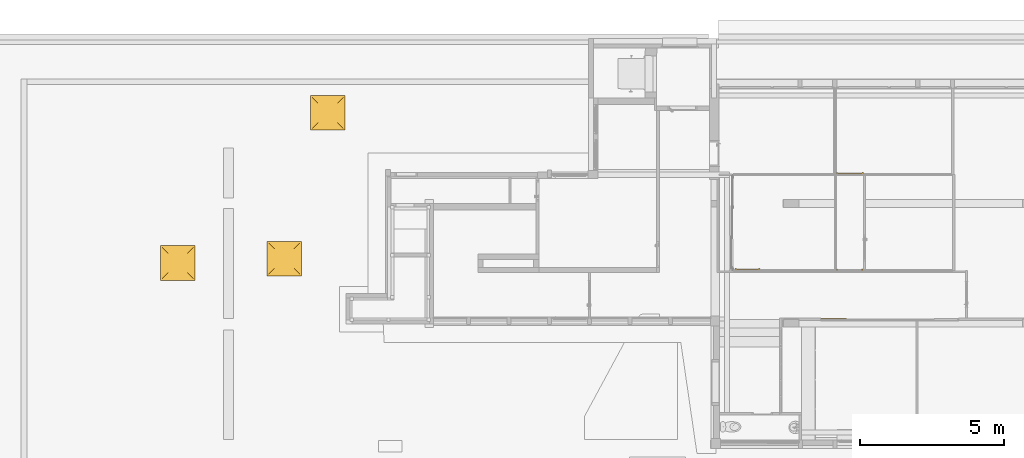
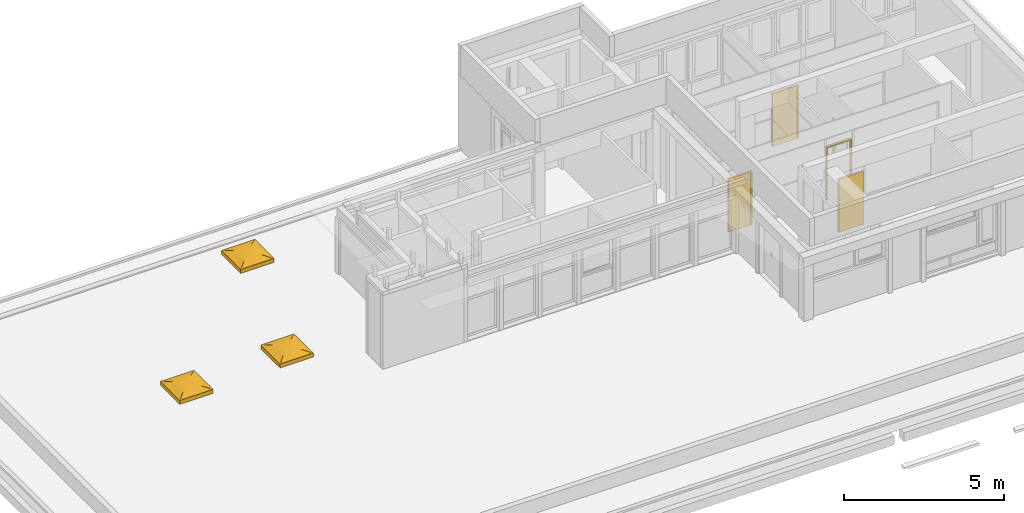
# One storey, part 39 of 49: 4 doors, 3 windows, 3 elements without a shape of their own.
"""IFC4 building model written with IfcOpenShell, lengths in metres."""

from ifc_helpers import new_model, entity, si_unit, converted_unit, derived_unit, direction, frame, origin, place, context, subcontext, project, spatial, indexed_curve, outline, extrude, polygons, source, transform, mapped, material, material_list, constituent, constituent_set, type_object, type_shapes, element, aggregate, save


model = new_model("IFC4")

# Units and contexts
model_context = context("Model", 3, precision=1e-05, world=origin(), true_north=direction((6.12303176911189e-17, 1.0)))
body_context = subcontext(model_context, "Body", "Model", "MODEL_VIEW")
ifc_project = project(units=[si_unit("LENGTHUNIT", "METRE"), si_unit("AREAUNIT", "SQUARE_METRE"), si_unit("VOLUMEUNIT", "CUBIC_METRE"), converted_unit("PLANEANGLEUNIT", "DEGREE", entity("IfcRatioMeasure", 0.0174532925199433), si_unit("PLANEANGLEUNIT", "RADIAN"), dimensions=[0, 0, 0, 0, 0, 0, 0]), si_unit("MASSUNIT", "GRAM", prefix="KILO"), derived_unit("MASSDENSITYUNIT", [(si_unit("MASSUNIT", "GRAM", prefix="KILO"), 1), (si_unit("LENGTHUNIT", "METRE"), -3)]), derived_unit("MOMENTOFINERTIAUNIT", [(si_unit("LENGTHUNIT", "METRE"), 4)]), si_unit("TIMEUNIT", "SECOND"), si_unit("FREQUENCYUNIT", "HERTZ"), si_unit("THERMODYNAMICTEMPERATUREUNIT", "DEGREE_CELSIUS"), derived_unit("THERMALTRANSMITTANCEUNIT", [(si_unit("MASSUNIT", "GRAM", prefix="KILO"), 1), (si_unit("THERMODYNAMICTEMPERATUREUNIT", "KELVIN"), -1), (si_unit("TIMEUNIT", "SECOND"), -3)]), derived_unit("VOLUMETRICFLOWRATEUNIT", [(si_unit("LENGTHUNIT", "METRE"), 3), (si_unit("TIMEUNIT", "SECOND"), -1)]), si_unit("ELECTRICCURRENTUNIT", "AMPERE"), si_unit("ELECTRICVOLTAGEUNIT", "VOLT"), si_unit("POWERUNIT", "WATT"), si_unit("FORCEUNIT", "NEWTON", prefix="KILO"), si_unit("ILLUMINANCEUNIT", "LUX"), si_unit("LUMINOUSFLUXUNIT", "LUMEN"), si_unit("LUMINOUSINTENSITYUNIT", "CANDELA"), derived_unit("USERDEFINED", [(si_unit("MASSUNIT", "GRAM", prefix="KILO"), -1), (si_unit("LENGTHUNIT", "METRE"), -2), (si_unit("TIMEUNIT", "SECOND"), 3), (si_unit("LUMINOUSFLUXUNIT", "LUMEN"), 1)]), derived_unit("LINEARVELOCITYUNIT", [(si_unit("LENGTHUNIT", "METRE"), 1), (si_unit("TIMEUNIT", "SECOND"), -1)]), si_unit("PRESSUREUNIT", "PASCAL"), derived_unit("USERDEFINED", [(si_unit("LENGTHUNIT", "METRE"), -2), (si_unit("MASSUNIT", "GRAM", prefix="KILO"), 1), (si_unit("TIMEUNIT", "SECOND"), -2)]), derived_unit("LINEARFORCEUNIT", [(si_unit("MASSUNIT", "GRAM", prefix="KILO"), 1), (si_unit("LENGTHUNIT", "METRE"), 1), (si_unit("TIMEUNIT", "SECOND"), -2), (si_unit("LENGTHUNIT", "METRE"), -1)]), derived_unit("PLANARFORCEUNIT", [(si_unit("MASSUNIT", "GRAM", prefix="KILO"), 1), (si_unit("LENGTHUNIT", "METRE"), 1), (si_unit("TIMEUNIT", "SECOND"), -2), (si_unit("LENGTHUNIT", "METRE"), -2)])], contexts=[model_context])

# Site, building, storey
site_placement = place(None, origin())
site = spatial("IfcSite", under=ifc_project, at=site_placement, Name="Default", CompositionType="ELEMENT")
building_placement = place(site_placement, origin())
building = spatial("IfcBuilding", under=site, at=building_placement, Name="HOTEL CONSULAIRE BOULOGNE SUR MER", CompositionType="ELEMENT")
storey_placement = place(building_placement, frame((0.0, 0.0, 6.81974152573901)))
storey = spatial("IfcBuildingStorey", under=building, at=storey_placement, Name="Niveau 2", CompositionType="ELEMENT", Elevation=6.81974152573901)

# Curtain wall, door
curtain_wall_type = type_object("IfcCurtainWallType", Name="Mur-rideau:Simple panneau", PredefinedType="NOTDEFINED")
curtain_wall_1_placement = place(storey_placement, frame((0.0, 0.0, -6.81974152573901)))
curtain_wall_1 = element("IfcCurtainWall", 1, at=curtain_wall_1_placement, inside=storey, type_object=curtain_wall_type, Name="Mur-rideau:Simple panneau", ObjectType="Mur-rideau:Simple panneau", PredefinedType="NOTDEFINED")
ifc_material_1 = material(Name="PVC - Blanc", Category="Plastique")
ifc_constituent_1 = constituent(ifc_material_1, Name="PVC - Blanc", Category="Matériaux")
ifc_material_2 = material(Name="Porte - Panneau", Category="Bois")
ifc_constituent_2 = constituent(ifc_material_2, Name="Porte - Panneau", Category="Matériaux")
ifc_constituent_set_1 = constituent_set(constituents=[ifc_constituent_1, ifc_constituent_2], Name="MaterialConstituentSet")
ifc_material_list_1 = material_list([ifc_material_1, ifc_material_2, ifc_material_1, ifc_material_1])
door_type_1 = type_object("IfcDoorType", Name="Porte simple:Porte simple", OperationType="SINGLE_SWING_RIGHT", PredefinedType="DOOR", material=ifc_material_list_1)
shared_shape_1 = source(origin(), body_context, "Body", "SweptSolid", [
    extrude(outline(indexed_curve([(0.393774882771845, -0.997999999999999), (0.443774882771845, -0.997999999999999), (0.443774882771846, 1.023), (-0.443774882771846, 1.023), (-0.443774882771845, -0.997999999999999), (-0.393774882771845, -0.997999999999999), (-0.393774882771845, 0.972999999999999), (0.393774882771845, 0.972999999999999), (0.393774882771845, -0.997999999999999)], self_intersect=False)), frame((0.0, -0.045, 0.997999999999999), z_axis=(0.0, 1.0, 0.0), x_axis=(-1.0, 0.0, 0.0)), (0.0, 0.0, 1.0), 0.07),
    extrude(outline(indexed_curve([(-0.393774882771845, -0.025), (0.393774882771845, -0.025), (0.393774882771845, 0.025), (-0.393774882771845, 0.025), (-0.393774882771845, -0.025)], self_intersect=False)), frame((0.0, -0.00999999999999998, 0.0), z_axis=(0.0, 0.0, 1.0), x_axis=(-1.0, 0.0, 0.0)), (0.0, 0.0, 1.0), 1.971),
])
type_shapes(door_type_1, [shared_shape_1])
door_1_placement = place(curtain_wall_1_placement, frame((15.6335819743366, -19.643155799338, 6.81974152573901)))
door_1 = element("IfcDoor", 2, at=door_1_placement, type_object=door_type_1, material=ifc_constituent_set_1, Name="Porte simple:Porte simple", ObjectType="Porte simple:Porte simple", OperationType="SINGLE_SWING_RIGHT", OverallHeight=2.021, OverallWidth=0.887549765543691, PredefinedType="DOOR", context=body_context, shape_type="MappedRepresentation", body=[
    mapped(shared_shape_1, transform((0.0, 0.0, 0.0), scale=1.0)),
])
aggregate(curtain_wall_1, [door_1])

curtain_wall_2_placement = place(storey_placement, frame((0.0, 0.0, -6.81974152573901)))
curtain_wall_2 = element("IfcCurtainWall", 3, at=curtain_wall_2_placement, inside=storey, type_object=curtain_wall_type, Name="Mur-rideau:Simple panneau", ObjectType="Mur-rideau:Simple panneau", PredefinedType="NOTDEFINED")
ifc_constituent_3 = constituent(ifc_material_1, Name="PVC - Blanc", Category="Matériaux")
ifc_constituent_4 = constituent(ifc_material_2, Name="Porte - Panneau", Category="Matériaux")
ifc_constituent_set_2 = constituent_set(constituents=[ifc_constituent_3, ifc_constituent_4], Name="MaterialConstituentSet")
ifc_material_list_2 = material_list([ifc_material_1, ifc_material_1, ifc_material_2, ifc_material_1])
door_type_2 = type_object("IfcDoorType", Name="Porte simple:Porte simple", OperationType="SINGLE_SWING_LEFT", PredefinedType="DOOR", material=ifc_material_list_2)
shared_shape_2 = source(origin(), body_context, "Body", "SweptSolid", [
    extrude(outline(indexed_curve([(-0.997999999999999, -0.470999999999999), (1.023, -0.470999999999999), (1.023, 0.470999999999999), (-0.997999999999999, 0.470999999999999), (-0.997999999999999, 0.420999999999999), (0.972999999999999, 0.420999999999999), (0.972999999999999, -0.420999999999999), (-0.997999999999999, -0.420999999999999), (-0.997999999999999, -0.470999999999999)], self_intersect=False)), frame((0.0, -0.025, 0.997999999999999), z_axis=(0.0, 1.0, 0.0), x_axis=(0.0, 0.0, 1.0)), (0.0, 0.0, 1.0), 0.07),
    extrude(outline(indexed_curve([(-0.0250000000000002, -0.420999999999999), (0.0249999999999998, -0.420999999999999), (0.0250000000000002, 0.420999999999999), (-0.0249999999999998, 0.420999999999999), (-0.0250000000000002, -0.420999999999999)], self_intersect=False)), frame((0.0, 0.00999999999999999, 0.0), z_axis=(0.0, 0.0, 1.0), x_axis=(0.0, 1.0, 0.0)), (0.0, 0.0, 1.0), 1.971),
])
type_shapes(door_type_2, [shared_shape_2])
door_2_placement = place(curtain_wall_2_placement, frame((16.202075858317, -14.6024237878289, 6.81974152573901)))
door_2 = element("IfcDoor", 4, at=door_2_placement, type_object=door_type_2, material=ifc_constituent_set_2, Name="Porte simple:Porte simple", ObjectType="Porte simple:Porte simple", OperationType="SINGLE_SWING_LEFT", OverallHeight=2.021, OverallWidth=0.941999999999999, PredefinedType="DOOR", context=body_context, shape_type="MappedRepresentation", body=[
    mapped(shared_shape_2, transform((0.0, 0.0, 0.0), scale=1.0)),
])
aggregate(curtain_wall_2, [door_2])

# Curtain wall, doors
curtain_wall_3_placement = place(storey_placement, frame((0.0, 0.0, -6.81974152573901)))
curtain_wall_3 = element("IfcCurtainWall", 5, at=curtain_wall_3_placement, inside=storey, type_object=curtain_wall_type, Name="Mur-rideau:Simple panneau", ObjectType="Mur-rideau:Simple panneau", PredefinedType="NOTDEFINED")
ifc_material_list_3 = material_list([ifc_material_1, ifc_material_1, ifc_material_2, ifc_material_1])
door_type_3 = type_object("IfcDoorType", Name="ouverture simple:ouverture simple", OperationType="SINGLE_SWING_LEFT", PredefinedType="DOOR", material=ifc_material_list_3)
shared_shape_3 = source(origin(), body_context, "Body", "SweptSolid", [
    extrude(outline(indexed_curve([(-0.997999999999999, -0.465), (1.023, -0.465), (1.023, 0.465), (-0.997999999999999, 0.465), (-0.997999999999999, 0.415), (0.972999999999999, 0.415), (0.972999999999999, -0.415), (-0.997999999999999, -0.415), (-0.997999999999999, -0.465)], self_intersect=False)), frame((0.0, -0.025, 0.997999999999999), z_axis=(0.0, 1.0, 0.0), x_axis=(0.0, 0.0, 1.0)), (0.0, 0.0, 1.0), 0.0699999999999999),
])
type_shapes(door_type_3, [shared_shape_3])
door_3_placement = place(curtain_wall_3_placement, frame((16.196075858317, -17.9313078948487, 6.81974152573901), z_axis=(0.0, 0.0, 1.0), x_axis=(-1.0, 0.0, 0.0)))
door_3 = element("IfcDoor", 6, at=door_3_placement, type_object=door_type_3, material=ifc_material_1, Name="ouverture simple:ouverture simple", ObjectType="ouverture simple:ouverture simple", OperationType="SINGLE_SWING_LEFT", OverallHeight=2.021, OverallWidth=0.930000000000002, PredefinedType="DOOR", context=body_context, shape_type="MappedRepresentation", body=[
    mapped(shared_shape_3, transform((0.0, 0.0, 0.0), scale=1.0)),
])
ifc_constituent_5 = constituent(ifc_material_1, Name="PVC - Blanc", Category="Matériaux")
ifc_constituent_6 = constituent(ifc_material_2, Name="Porte - Panneau", Category="Matériaux")
ifc_constituent_set_3 = constituent_set(constituents=[ifc_constituent_5, ifc_constituent_6], Name="MaterialConstituentSet")
ifc_material_list_4 = material_list([ifc_material_1, ifc_material_2, ifc_material_1, ifc_material_1])
door_type_4 = type_object("IfcDoorType", Name="Porte simple:Porte simple", OperationType="SINGLE_SWING_LEFT", PredefinedType="DOOR", material=ifc_material_list_4)
shared_shape_4 = source(origin(), body_context, "Body", "SweptSolid", [
    extrude(outline(indexed_curve([(-0.997999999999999, -0.426304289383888), (1.023, -0.426304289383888), (1.023, 0.426304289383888), (-0.997999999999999, 0.426304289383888), (-0.997999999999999, 0.376304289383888), (0.972999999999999, 0.376304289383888), (0.972999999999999, -0.376304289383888), (-0.997999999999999, -0.376304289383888), (-0.997999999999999, -0.426304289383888)], self_intersect=False)), frame((0.0, -0.025, 0.997999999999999), z_axis=(0.0, 1.0, 0.0), x_axis=(0.0, 0.0, 1.0)), (0.0, 0.0, 1.0), 0.07),
    extrude(outline(indexed_curve([(-0.0250000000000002, -0.376304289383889), (0.0249999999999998, -0.376304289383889), (0.0250000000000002, 0.376304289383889), (-0.0249999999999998, 0.376304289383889), (-0.0250000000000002, -0.376304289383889)], self_intersect=False)), frame((0.0, 0.00999999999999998, 0.0), z_axis=(0.0, 0.0, 1.0), x_axis=(0.0, 1.0, 0.0)), (0.0, 0.0, 1.0), 1.971),
])
type_shapes(door_type_4, [shared_shape_4])
door_4_placement = place(curtain_wall_3_placement, frame((12.6517715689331, -17.9313078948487, 6.81974152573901)))
door_4 = element("IfcDoor", 7, at=door_4_placement, type_object=door_type_4, material=ifc_constituent_set_3, Name="Porte simple:Porte simple", ObjectType="Porte simple:Porte simple", OperationType="SINGLE_SWING_LEFT", OverallHeight=2.021, OverallWidth=0.852608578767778, PredefinedType="DOOR", context=body_context, shape_type="MappedRepresentation", body=[
    mapped(shared_shape_4, transform((0.0, 0.0, 0.0), scale=1.0)),
])
aggregate(curtain_wall_3, [door_3, door_4])

# Windows
ifc_material_3 = material(Name="Verre", Category="Verre")
ifc_constituent_7 = constituent(ifc_material_3, Name="Verre", Category="Matériaux")
ifc_material_4 = material(Name="Métal - Aluminium", Category="Métal")
ifc_constituent_8 = constituent(ifc_material_4, Name="Métal - Aluminium", Category="Matériaux")
ifc_constituent_set_4 = constituent_set(constituents=[ifc_constituent_7, ifc_constituent_8], Name="MaterialConstituentSet")
ifc_material_list_5 = material_list([ifc_material_4, ifc_material_3])
window_type = type_object("IfcWindowType", Name="Skydome:1100x1100", PartitioningType="NOTDEFINED", PredefinedType="WINDOW", material=ifc_material_list_5)
shared_shape_5 = source(origin(), body_context, "Body", "Tessellation", [
    polygons([(-0.629999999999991, 0.289999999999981, 4.63759999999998), (-0.523472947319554, 0.183472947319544, 4.67334497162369), (-0.414652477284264, 0.0746524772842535, 4.70134177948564), (-0.304101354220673, -0.0358986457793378, 4.72144563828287), (-0.192391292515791, -0.14760870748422, 4.73355258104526), (-0.0801000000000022, -0.259900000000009, 4.7375999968), (-0.0799000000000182, -0.259900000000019, 4.7375999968), (0.0323912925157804, -0.14760870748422, 4.73355258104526), (0.144101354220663, -0.0358986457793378, 4.72144563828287), (0.254652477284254, 0.0746524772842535, 4.70134177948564), (0.363472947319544, 0.183472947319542, 4.67334497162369), (0.469999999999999, 0.28999999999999, 4.63759999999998), (0.0601086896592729, 0.289999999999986, 4.63759999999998), (-0.63, 0.289999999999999, 4.63193095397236), (0.469999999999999, 0.289999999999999, 4.63193095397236), (-0.0801000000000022, -0.2599, 4.73229504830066), (-0.1924080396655, -0.147591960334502, 4.72823259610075), (-0.304130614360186, -0.0358693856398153, 4.71608082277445), (-0.414685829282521, 0.0746858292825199, 4.69590301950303), (-0.523497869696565, 0.183497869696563, 4.66780428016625), (0.363497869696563, 0.183497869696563, 4.66780428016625), (0.25468582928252, 0.0746858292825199, 4.69590301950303), (0.144130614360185, -0.0358693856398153, 4.71608082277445), (0.0324080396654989, -0.147591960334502, 4.72823259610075), (-0.0798999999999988, -0.2599, 4.73229504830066), (-0.218936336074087, 0.289999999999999, 4.63193095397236), (-0.0799000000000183, -0.260099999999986, 4.7375999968), (0.0323912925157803, -0.372391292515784, 4.73355258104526), (0.144101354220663, -0.484101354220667, 4.72144563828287), (0.254652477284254, -0.594652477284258, 4.70134177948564), (0.363472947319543, -0.703472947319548, 4.67334497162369), (0.46999999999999, -0.810000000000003, 4.63759999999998), (0.469999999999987, -0.400108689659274, 4.63759999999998), (0.469999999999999, -0.810000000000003, 4.63193095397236), (0.363497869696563, -0.703497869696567, 4.66780428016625), (0.25468582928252, -0.594685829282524, 4.69590301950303), (0.144130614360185, -0.484130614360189, 4.71608082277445), (0.0324080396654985, -0.372408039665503, 4.72823259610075), (-0.0798999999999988, -0.260100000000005, 4.73229504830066), (0.469999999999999, -0.121063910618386, 4.63193095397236), (-0.0800999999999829, -0.260099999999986, 4.7375999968), (-0.192391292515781, -0.372391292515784, 4.73355258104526), (-0.304101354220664, -0.484101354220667, 4.72144563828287), (-0.414652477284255, -0.594652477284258, 4.70134177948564), (-0.523472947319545, -0.703472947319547, 4.67334497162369), (-0.63, -0.809999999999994, 4.63759999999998), (-0.220108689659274, -0.809999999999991, 4.63759999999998), (-0.63, -0.810000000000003, 4.63193095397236), (-0.523497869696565, -0.703497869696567, 4.66780428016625), (-0.414685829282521, -0.594685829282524, 4.69590301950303), (-0.304130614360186, -0.484130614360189, 4.71608082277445), (-0.1924080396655, -0.372408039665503, 4.72823259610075), (-0.0801000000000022, -0.260100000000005, 4.73229504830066), (0.058936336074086, -0.810000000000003, 4.63193095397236), (-0.629999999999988, -0.11989131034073, 4.63759999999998), (-0.63, -0.398936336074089, 4.63193095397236)], [[[6, 7, 8, 5]], [[5, 8, 9, 4]], [[9, 10, 3, 4]], [[13, 2, 3]], [[10, 11, 13]], [[11, 12, 13]], [[2, 13, 1]], [[3, 10, 13]], [[1, 13, 12, 15, 26, 14]], [[27, 39, 53, 41]], [[20, 26, 19]], [[22, 19, 26]], [[14, 26, 20]], [[26, 15, 21]], [[21, 22, 26]], [[22, 23, 18, 19]], [[17, 18, 23, 24]], [[16, 17, 24, 25]], [[6, 16, 25, 7]], [[32, 47, 46, 48, 54, 34]], [[7, 27, 28, 8]], [[8, 28, 29, 9]], [[29, 30, 10, 9]], [[33, 11, 10]], [[30, 31, 33]], [[31, 32, 33]], [[11, 33, 12]], [[10, 30, 33]], [[12, 33, 32, 34, 40, 15]], [[41, 53, 16, 6]], [[21, 40, 22]], [[36, 22, 40]], [[15, 40, 21]], [[40, 34, 35]], [[35, 36, 40]], [[36, 37, 23, 22]], [[24, 23, 37, 38]], [[25, 24, 38, 39]], [[7, 25, 39, 27]], [[46, 55, 1, 14, 56, 48]], [[27, 41, 42, 28]], [[28, 42, 43, 29]], [[43, 44, 30, 29]], [[47, 31, 30]], [[44, 45, 47]], [[45, 46, 47]], [[31, 47, 32]], [[30, 44, 47]], [[35, 54, 36]], [[50, 36, 54]], [[34, 54, 35]], [[54, 48, 49]], [[49, 50, 54]], [[50, 51, 37, 36]], [[38, 37, 51, 52]], [[39, 38, 52, 53]], [[41, 6, 5, 42]], [[42, 5, 4, 43]], [[4, 3, 44, 43]], [[55, 45, 44]], [[3, 2, 55]], [[2, 1, 55]], [[45, 55, 46]], [[44, 3, 55]], [[49, 56, 50]], [[19, 50, 56]], [[48, 56, 49]], [[56, 14, 20]], [[20, 19, 56]], [[19, 18, 51, 50]], [[52, 51, 18, 17]], [[53, 52, 17, 16]]], closed=True),
    polygons([(-0.679999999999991, -0.859999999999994, 4.6376), (-0.679999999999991, -0.859999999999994, 4.4876), (0.51999999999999, -0.859999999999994, 4.4876), (0.51999999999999, -0.859999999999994, 4.6376), (-0.63, -0.810000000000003, 4.6376), (0.469999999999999, -0.810000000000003, 4.6376), (-0.63, -0.810000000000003, 4.4876), (0.469999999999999, -0.810000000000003, 4.4876), (0.51999999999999, 0.33999999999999, 4.4876), (0.51999999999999, 0.33999999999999, 4.6376), (0.469999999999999, 0.289999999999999, 4.6376), (0.469999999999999, 0.289999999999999, 4.4876), (-0.679999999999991, 0.33999999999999, 4.4876), (-0.679999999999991, 0.33999999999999, 4.6376), (-0.63, 0.289999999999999, 4.6376), (-0.63, 0.289999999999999, 4.4876)], [[[1, 2, 3, 4]], [[12, 11, 15, 16]], [[1, 4, 10, 14], [5, 15, 11, 6]], [[7, 5, 6, 8]], [[10, 9, 13, 14]], [[2, 13, 9, 3], [7, 8, 12, 16]], [[4, 3, 9, 10]], [[16, 15, 5, 7]], [[8, 6, 11, 12]], [[14, 13, 2, 1]]], closed=True),
])
type_shapes(window_type, [shared_shape_5])
window_1_placement = place(storey_placement, frame((-3.33969934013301, -17.2849019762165, -3.84559999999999)))
element("IfcWindow", 8, at=window_1_placement, inside=storey, type_object=window_type, material=ifc_constituent_set_4, Name="Skydome:1100x1100", ObjectType="Skydome:1100x1100", OverallHeight=1.07999999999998, OverallWidth=1.29715041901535, PartitioningType="NOTDEFINED", PredefinedType="WINDOW", context=body_context, shape_type="MappedRepresentation", body=[
    mapped(shared_shape_5, transform((0.0, 0.0, 0.0), scale=1.0)),
])
ifc_constituent_9 = constituent(ifc_material_3, Name="Verre", Category="Matériaux")
ifc_constituent_10 = constituent(ifc_material_4, Name="Métal - Aluminium", Category="Matériaux")
ifc_constituent_set_5 = constituent_set(constituents=[ifc_constituent_9, ifc_constituent_10], Name="MaterialConstituentSet")
window_2_placement = place(storey_placement, frame((-7.03098856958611, -17.4355842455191, -3.84559999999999)))
element("IfcWindow", 9, at=window_2_placement, inside=storey, type_object=window_type, material=ifc_constituent_set_5, Name="Skydome:1100x1100", ObjectType="Skydome:1100x1100", OverallHeight=1.07999999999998, OverallWidth=1.29715041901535, PartitioningType="NOTDEFINED", PredefinedType="WINDOW", context=body_context, shape_type="MappedRepresentation", body=[
    mapped(shared_shape_5, transform((0.0, 0.0, 0.0), scale=1.0)),
])
ifc_constituent_11 = constituent(ifc_material_3, Name="Verre", Category="Matériaux")
ifc_constituent_12 = constituent(ifc_material_4, Name="Métal - Aluminium", Category="Matériaux")
ifc_constituent_set_6 = constituent_set(constituents=[ifc_constituent_11, ifc_constituent_12], Name="MaterialConstituentSet")
window_3_placement = place(storey_placement, frame((-1.8320062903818, -12.2250736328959, -3.84559999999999)))
element("IfcWindow", 10, at=window_3_placement, inside=storey, type_object=window_type, material=ifc_constituent_set_6, Name="Skydome:1100x1100", ObjectType="Skydome:1100x1100", OverallHeight=1.07999999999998, OverallWidth=1.29715041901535, PartitioningType="NOTDEFINED", PredefinedType="WINDOW", context=body_context, shape_type="MappedRepresentation", body=[
    mapped(shared_shape_5, transform((0.0, 0.0, 0.0), scale=1.0)),
])

save(model, "model.ifc")
